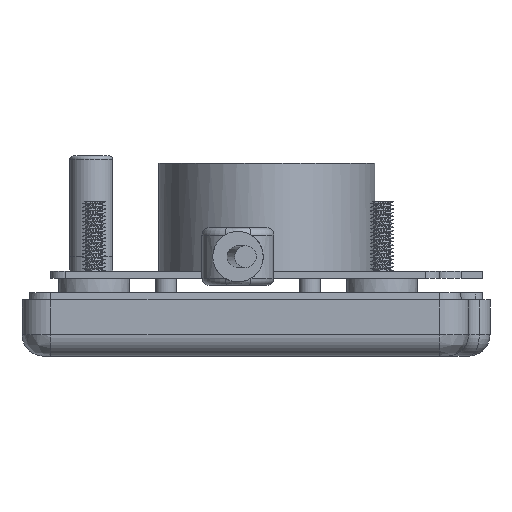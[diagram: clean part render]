
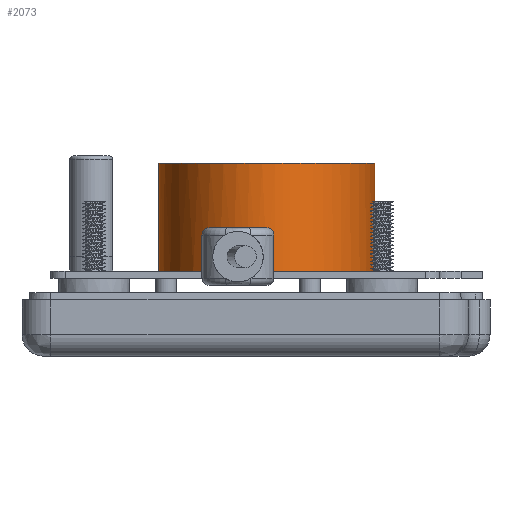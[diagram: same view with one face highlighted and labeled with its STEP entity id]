
A CAD part, front view. The second image highlights one B-rep face of the part: STEP entity #2073.
In plain terms, the highlighted face is a extrusion surface.
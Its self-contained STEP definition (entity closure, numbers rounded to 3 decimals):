
#144=SURFACE_OF_LINEAR_EXTRUSION('',#170,#12897);
#170=ELLIPSE('',#14085,20.,15.);
#307=B_SPLINE_CURVE_WITH_KNOTS('',3,(#54490,#54491,#54492,#54493,#54494,
#54495,#54496,#54497,#54498,#54499,#54500,#54501,#54502,#54503,#54504,#54505,
#54506,#54507,#54508,#54509,#54510,#54511,#54512,#54513,#54514,#54515,#54516,
#54517,#54518,#54519),.UNSPECIFIED.,.T.,.F.,(2,2,2,2,2,2,2,2,2,2,2,2,2,
2,2,2,2),(-0.063,0.,0.063,0.125,0.25,0.313,0.375,0.438,
0.5,0.563,0.625,0.75,0.813,0.875,0.938,1.,1.063),.UNSPECIFIED.);
#347=B_SPLINE_CURVE_WITH_KNOTS('',3,(#54753,#54754,#54755,#54756,#54757,
#54758,#54759,#54760,#54761,#54762,#54763,#54764,#54765,#54766,#54767,#54768,
#54769,#54770,#54771,#54772,#54773,#54774,#54775,#54776,#54777,#54778,#54779,
#54780),.UNSPECIFIED.,.T.,.F.,(2,2,2,2,2,2,2,2,2,2,2,2,2,2,2,2),(-0.062,
0.,0.063,0.125,0.25,0.313,0.375,0.438,0.5,0.563,0.625,0.75,0.875,0.938,
1.,1.063),.UNSPECIFIED.);
#1502=FACE_BOUND('',#3964,.T.);
#1503=FACE_BOUND('',#3965,.T.);
#2073=ADVANCED_FACE('',(#1502,#1503),#144,.F.);
#3964=EDGE_LOOP('',(#6958));
#3965=EDGE_LOOP('',(#6959));
#6958=ORIENTED_EDGE('',*,*,#10583,.F.);
#6959=ORIENTED_EDGE('',*,*,#10624,.T.);
#9077=VERTEX_POINT('',#54520);
#9118=VERTEX_POINT('',#54781);
#10583=EDGE_CURVE('',#9077,#9077,#307,.T.);
#10624=EDGE_CURVE('',#9118,#9118,#347,.T.);
#12897=VECTOR('',#16637,1.);
#14085=AXIS2_PLACEMENT_3D('',#54782,#16635,#16636);
#16635=DIRECTION('',(0.,0.,1.));
#16636=DIRECTION('',(0.,1.,0.));
#16637=DIRECTION('',(0.,0.,-1.));
#54490=CARTESIAN_POINT('',(5.056,-20.182,19.));
#54491=CARTESIAN_POINT('',(9.52,-18.845,19.));
#54492=CARTESIAN_POINT('',(11.486,-17.541,19.));
#54493=CARTESIAN_POINT('',(14.713,-14.258,19.));
#54494=CARTESIAN_POINT('',(15.977,-12.285,19.));
#54495=CARTESIAN_POINT('',(18.768,-5.999,19.));
#54496=CARTESIAN_POINT('',(19.363,-1.228,19.));
#54497=CARTESIAN_POINT('',(18.509,5.571,19.));
#54498=CARTESIAN_POINT('',(17.92,7.837,19.));
#54499=CARTESIAN_POINT('',(16.113,12.043,19.));
#54500=CARTESIAN_POINT('',(14.87,14.041,19.));
#54501=CARTESIAN_POINT('',(11.708,17.366,19.));
#54502=CARTESIAN_POINT('',(9.761,18.715,19.));
#54503=CARTESIAN_POINT('',(5.329,20.152,19.));
#54504=CARTESIAN_POINT('',(2.943,20.177,19.));
#54505=CARTESIAN_POINT('',(-1.473,18.864,19.));
#54506=CARTESIAN_POINT('',(-3.487,17.54,19.));
#54507=CARTESIAN_POINT('',(-6.709,14.263,19.));
#54508=CARTESIAN_POINT('',(-7.978,12.281,19.));
#54509=CARTESIAN_POINT('',(-10.765,6.005,19.));
#54510=CARTESIAN_POINT('',(-11.366,1.243,19.));
#54511=CARTESIAN_POINT('',(-10.507,-5.587,19.));
#54512=CARTESIAN_POINT('',(-9.935,-7.795,19.));
#54513=CARTESIAN_POINT('',(-8.111,-12.052,19.));
#54514=CARTESIAN_POINT('',(-6.888,-14.022,19.));
#54515=CARTESIAN_POINT('',(-3.695,-17.381,19.));
#54516=CARTESIAN_POINT('',(-1.736,-18.723,19.));
#54517=CARTESIAN_POINT('',(2.643,-20.143,19.));
#54518=CARTESIAN_POINT('',(5.056,-20.182,19.));
#54519=CARTESIAN_POINT('',(9.52,-18.845,19.));
#54520=CARTESIAN_POINT('',(7.288,-19.514,19.));
#54753=CARTESIAN_POINT('',(1.668,-20.,4.));
#54754=CARTESIAN_POINT('',(6.332,-20.,4.));
#54755=CARTESIAN_POINT('',(8.592,-19.255,4.));
#54756=CARTESIAN_POINT('',(12.471,-16.754,4.));
#54757=CARTESIAN_POINT('',(14.074,-15.039,4.));
#54758=CARTESIAN_POINT('',(17.858,-9.218,4.));
#54759=CARTESIAN_POINT('',(19.,-4.621,4.));
#54760=CARTESIAN_POINT('',(19.,2.306,4.));
#54761=CARTESIAN_POINT('',(18.706,4.584,4.));
#54762=CARTESIAN_POINT('',(17.51,9.002,4.));
#54763=CARTESIAN_POINT('',(16.594,11.157,4.));
#54764=CARTESIAN_POINT('',(14.097,15.008,4.));
#54765=CARTESIAN_POINT('',(12.5,16.731,4.));
#54766=CARTESIAN_POINT('',(8.598,19.256,4.));
#54767=CARTESIAN_POINT('',(6.319,19.995,4.));
#54768=CARTESIAN_POINT('',(1.728,20.005,4.));
#54769=CARTESIAN_POINT('',(-0.582,19.259,4.));
#54770=CARTESIAN_POINT('',(-4.461,16.763,4.));
#54771=CARTESIAN_POINT('',(-6.072,15.039,4.));
#54772=CARTESIAN_POINT('',(-9.837,9.256,4.));
#54773=CARTESIAN_POINT('',(-10.999,4.591,4.));
#54774=CARTESIAN_POINT('',(-11.001,-4.574,4.));
#54775=CARTESIAN_POINT('',(-9.853,-9.217,4.));
#54776=CARTESIAN_POINT('',(-6.093,-15.015,4.));
#54777=CARTESIAN_POINT('',(-4.48,-16.744,4.));
#54778=CARTESIAN_POINT('',(-0.618,-19.242,4.));
#54779=CARTESIAN_POINT('',(1.668,-20.,4.));
#54780=CARTESIAN_POINT('',(6.332,-20.,4.));
#54781=CARTESIAN_POINT('',(4.,-20.,4.));
#54782=CARTESIAN_POINT('',(4.,0.,14.));
